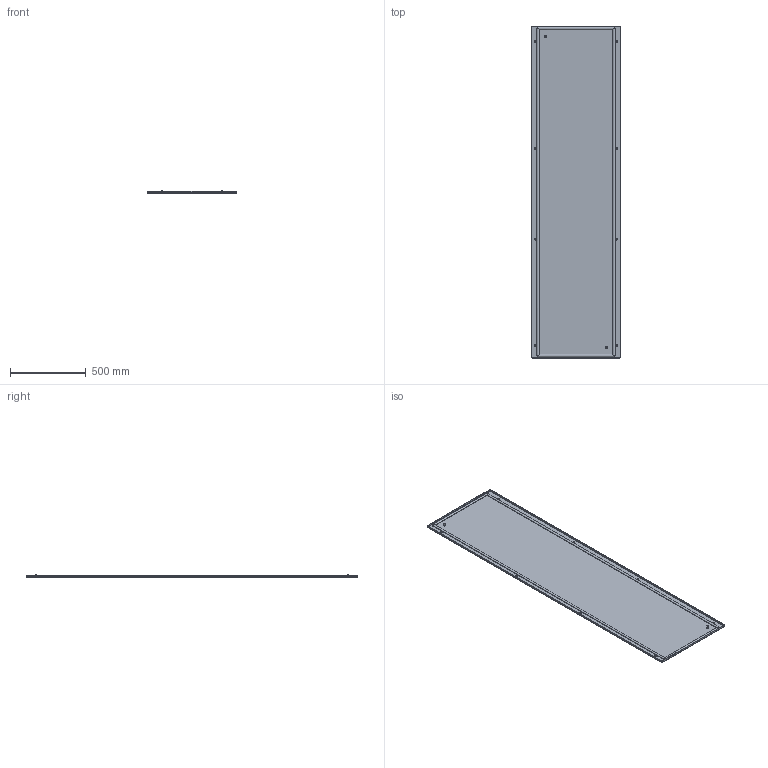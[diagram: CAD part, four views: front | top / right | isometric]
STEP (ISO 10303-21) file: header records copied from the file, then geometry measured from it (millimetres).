
FILE_DESCRIPTION(('STEP AP203'), '1');
FILE_NAME('Ïàíåëü çàäíÿÿ 2200õ600 ìì IP55 OptiBox M 419686 ÊÝÀÇ', '', ('UNSPECIFIED'), ('UNSPECIFIED'), 'C3D Converter', 'C3D Toolkit', '');
FILE_SCHEMA(('CONFIG_CONTROL_DESIGN'));
Length unit declared in the file: millimetre
Bounding box: 586 x 2186 x 18.9 mm (x, y, z)
Volume: 2375769.5 mm3; surface area: 2913620.5 mm2
Topology: 4 solids, 4 shells, 141 faces, 290 edges, 172 vertices
Faces by surface type: plane 79, cylinder 54, bspline 8
Full cylindrical faces by diameter (mm): 0.75 x2, 1 x2, 6.3 x8, 8 x2, 9.3 x2, 13 x2, 13.5 x8
Entity records: 4868 total; most frequent: CARTESIAN_POINT 1954, DIRECTION 572, ORIENTED_EDGE 528, EDGE_CURVE 264, AXIS2_PLACEMENT_3D 210, EDGE_LOOP 200, VERTEX_POINT 172, LINE 152
